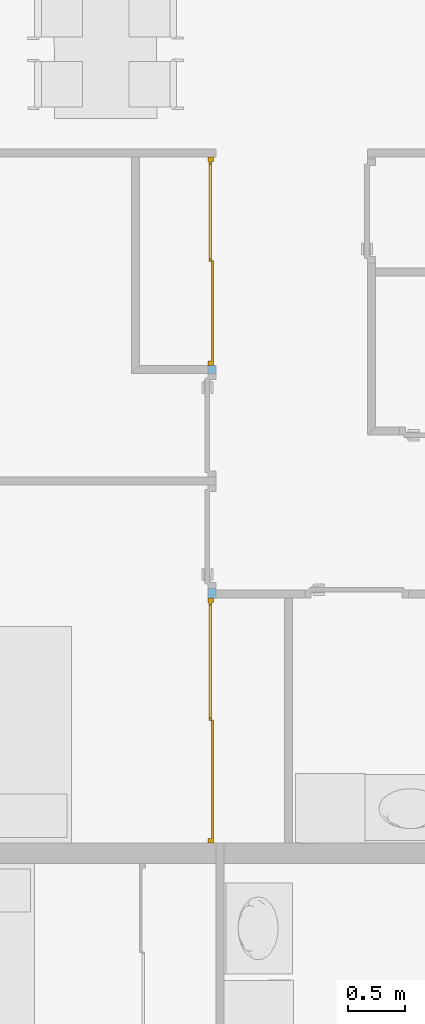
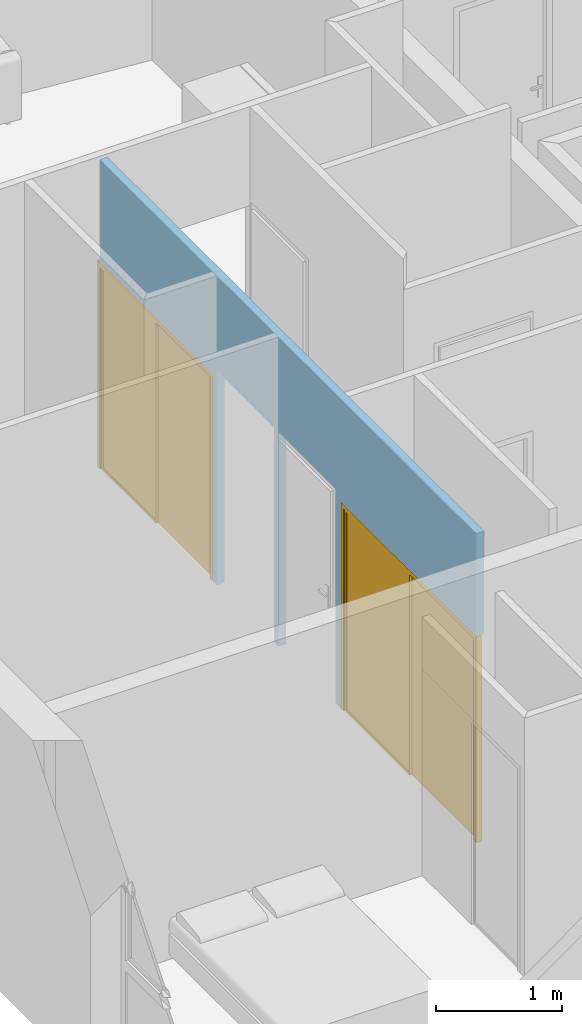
# One storey, part 88 of 164: 2 doors, 4 openings, plus 1 element that does not belong to this part.
"""IFC2X3 building model written with IfcOpenShell, lengths in millimetres."""

from ifc_helpers import new_model, entity, si_unit, converted_unit, derived_unit, money_unit, direction, frame, origin_with_axes, origin_2d_with_axis, place, context, subcontext, project, spatial, polyline, rectangle, outline, extrude, open_shell, faceted_brep, surface_model, material, layer, layer_set, layer_usage, type_object, element, fill, save


model = new_model("IFC2X3")

# Units and contexts
model_context = context("Model", 3, precision=0.01, world=origin_with_axes(), true_north=direction((0.0, 1.0)))
body_context = subcontext(model_context, "Body", "Model", "MODEL_VIEW")
ifc_project = project(units=[si_unit("LENGTHUNIT", "METRE", prefix="MILLI"), si_unit("AREAUNIT", "SQUARE_METRE"), si_unit("VOLUMEUNIT", "CUBIC_METRE"), converted_unit("PLANEANGLEUNIT", "DEGREE", entity("IfcPlaneAngleMeasure", 0.0174532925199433), si_unit("PLANEANGLEUNIT", "RADIAN"), dimensions=[0, 0, 0, 0, 0, 0, 0]), money_unit("USD"), converted_unit("TIMEUNIT", "Year", entity("IfcTimeMeasure", 31557600.0), si_unit("TIMEUNIT", "SECOND"), dimensions=[0, 0, 1, 0, 0, 0, 0]), si_unit("MASSUNIT", "GRAM", prefix="KILO"), si_unit("THERMODYNAMICTEMPERATUREUNIT", "DEGREE_CELSIUS"), si_unit("LUMINOUSINTENSITYUNIT", "LUMEN"), si_unit("ENERGYUNIT", "JOULE", prefix="MEGA"), derived_unit("THERMALCONDUCTANCEUNIT", [(si_unit("POWERUNIT", "WATT"), 1), (si_unit("LENGTHUNIT", "METRE"), -1), (si_unit("THERMODYNAMICTEMPERATUREUNIT", "KELVIN"), -1)]), derived_unit("SPECIFICHEATCAPACITYUNIT", [(si_unit("ENERGYUNIT", "JOULE"), 1), (si_unit("MASSUNIT", "GRAM", prefix="KILO"), -1), (si_unit("THERMODYNAMICTEMPERATUREUNIT", "KELVIN"), -1)]), derived_unit("MASSDENSITYUNIT", [(si_unit("MASSUNIT", "GRAM", prefix="KILO"), 1), (si_unit("VOLUMEUNIT", "CUBIC_METRE"), -1)])], contexts=[model_context])

# Site, building, storey
site_placement = place(None, origin_with_axes())
site = spatial("IfcSite", under=ifc_project, at=site_placement, Name="Site", CompositionType="ELEMENT")
building_placement = place(site_placement, origin_with_axes())
building = spatial("IfcBuilding", under=site, at=building_placement, Name="Bâtiment", CompositionType="ELEMENT")
storey_placement = place(building_placement, frame((0.0, 0.0, 5750.0), z_axis=(0.0, 0.0, 1.0), x_axis=(1.0, 0.0, 0.0)))
storey = spatial("IfcBuildingStorey", under=building, at=storey_placement, Name="Etage1", CompositionType="ELEMENT", Elevation=5750.0)

# Wall, openings, doors
ifc_material = material(Name="Hachure solide 268963992")
ifc_layer = layer(ifc_material, 70.0, ventilated="UNKNOWN")
ifc_layer_set = layer_set([ifc_layer], Name="Cloison 70 0826278243")
ifc_layer_usage = layer_usage(ifc_layer_set, "AXIS2", "POSITIVE", -70.0)
wall_type = type_object("IfcWallType", Name="Cloison 70 0826278243 70", PredefinedType="NOTDEFINED")
wall_placement = place(storey_placement, frame((2220940.801172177, -632613.5146792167, 0.0), z_axis=(0.0, 0.0, 1.0), x_axis=(9.654938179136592e-08, 0.9999999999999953, 0.0)))
wall = element("IfcWallStandardCase", 1, at=wall_placement, inside=storey, type_object=wall_type, material=ifc_layer_usage, Name="Mur-149", context=body_context, shape_type="SweptSolid", body=[
    extrude(outline(polyline([(180.0000067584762, -69.99999999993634), (6162.300556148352, -70.00000000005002), (6162.300556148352, 0.0), (180.0000000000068, 1.13686837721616e-10), (180.0000067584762, -69.99999999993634)])), origin_with_axes(), (0.0, 0.0, 1.0), 3000.0),
])
opening_1_placement = place(wall_placement, frame((3847.778411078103, 0.0, 0.0), z_axis=(0.0, 0.0, 1.0), x_axis=(1.0, 0.0, 0.0)))
element("IfcOpeningElement", 2, at=opening_1_placement, cuts=wall, Name="Por-276", context=body_context, shape_type="SweptSolid", body=[
    extrude(rectangle(XDim=910.0, YDim=2080.0, at=origin_2d_with_axis()), frame((0.0, -70.00000000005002, 1040.0), z_axis=(9.654938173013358e-08, -0.9999999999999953, 0.0), x_axis=(-0.9999999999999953, -9.654938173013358e-08, 0.0)), (0.0, 0.0, -1.0), 140.0),
])
opening_2_placement = place(wall_placement, frame((5287.539417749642, -1.13686837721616e-10, 0.0), z_axis=(0.0, 0.0, 1.0), x_axis=(1.0, 0.0, 0.0)))
opening_2 = element("IfcOpeningElement", 3, at=opening_2_placement, cuts=wall, Name="Por-321", context=body_context, shape_type="SweptSolid", body=[
    extrude(rectangle(XDim=1829.522276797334, YDim=2000.0, at=origin_2d_with_axis()), frame((-6.758469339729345e-06, 0.0005105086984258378, 1000.0), z_axis=(9.654938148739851e-08, -0.9999999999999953, 0.0), x_axis=(0.9999999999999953, 9.654938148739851e-08, 0.0)), (0.0, 0.0, -1.0), 70.0),
    extrude(rectangle(XDim=1829.522276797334, YDim=2000.0, at=origin_2d_with_axis()), frame((-6.758469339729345e-06, 0.0005105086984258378, 1000.0), z_axis=(-9.654938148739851e-08, 0.9999999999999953, 0.0), x_axis=(0.9999999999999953, 9.654938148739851e-08, 0.0)), (0.0, 0.0, -1.0), 70.0),
])
opening_3_placement = place(wall_placement, frame((2867.778411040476, -1.13686837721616e-10, 0.0), z_axis=(0.0, 0.0, 1.0), x_axis=(1.0, 0.0, 0.0)))
element("IfcOpeningElement", 4, at=opening_3_placement, cuts=wall, Name="Por-275", context=body_context, shape_type="SweptSolid", body=[
    extrude(rectangle(XDim=910.0, YDim=2080.0, at=origin_2d_with_axis()), frame((0.0, -70.00000000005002, 1040.0), z_axis=(-9.654938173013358e-08, 0.9999999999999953, 0.0), x_axis=(0.9999999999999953, 9.654938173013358e-08, 0.0)), (0.0, 0.0, 1.0), 140.0),
])
opening_4_placement = place(wall_placement, frame((1254.551809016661, 0.0, 0.0), z_axis=(0.0, 0.0, 1.0), x_axis=(1.0, 0.0, 0.0)))
opening_4 = element("IfcOpeningElement", 5, at=opening_4_placement, cuts=wall, Name="Por-321", context=body_context, shape_type="SweptSolid", body=[
    extrude(rectangle(XDim=2149.103632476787, YDim=2000.0, at=origin_2d_with_axis()), frame((-6.758469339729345e-06, 0.0001211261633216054, 1000.0), z_axis=(9.654938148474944e-08, -0.9999999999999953, 0.0), x_axis=(0.9999999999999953, 9.654938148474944e-08, 0.0)), (0.0, 0.0, -1.0), 70.0),
    extrude(rectangle(XDim=2149.103632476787, YDim=2000.0, at=origin_2d_with_axis()), frame((-6.758469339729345e-06, 0.0001211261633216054, 1000.0), z_axis=(-9.654938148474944e-08, 0.9999999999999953, 0.0), x_axis=(0.9999999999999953, 9.654938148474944e-08, 0.0)), (0.0, 0.0, -1.0), 70.0),
])
door_style = type_object("IfcDoorStyle", ConstructionType="NOTDEFINED", OperationType="NOTDEFINED", ParameterTakesPrecedence=False, Sizeable=False)
door_1_placement = place(opening_2_placement, frame((914.7611383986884, 1.13686837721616e-10, 0.0), z_axis=(0.0, 0.0, 1.0), x_axis=(-1.0, 0.0, 0.0)))
door_1 = element("IfcDoor", 6, at=door_1_placement, inside=storey, type_object=door_style, Name="Por-321", OverallHeight=2000.0, OverallWidth=1829.52, context=body_context, shape_type="SurfaceModel", body=[
    faceted_brep([(1829.522278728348, 49.99957781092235, 0.0), (1789.522278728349, 49.99957394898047, 0.0), (1789.522278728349, 49.99957394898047, 1960.0), (40.00000193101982, 49.9994050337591, 1960.0), (40.00000193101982, 49.9994050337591, 0.0), (1.931020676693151e-06, 49.99940117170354, 0.0), (1.931020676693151e-06, 49.99940117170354, 2000.0), (1829.522278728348, 49.99957781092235, 2000.0), (1829.522283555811, -0.0004221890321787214, 0.0), (1789.522283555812, -0.0004260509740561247, 0.0), (1789.522279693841, 39.99957394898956, 0.0), (1789.522279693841, 39.99957394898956, 1960.0), (40.0000028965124, 39.9994050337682, 1960.0), (40.0000028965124, 39.9994050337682, 0.0), (40.0000067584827, -0.0005949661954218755, 0.0), (6.75848355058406e-06, -0.0005988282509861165, 0.0), (6.75848355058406e-06, -0.0005988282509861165, 2000.0), (1829.522283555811, -0.0004221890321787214, 2000.0), (40.0000067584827, -0.0005949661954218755, 1960.0), (1789.522283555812, -0.0004260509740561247, 1960.0)], [[[0, 1, 2, 3, 4, 5, 6, 7]], [[0, 8, 9, 10, 1]], [[1, 10, 11, 2]], [[2, 11, 12, 3]], [[3, 12, 13, 4]], [[5, 4, 13, 14, 15]], [[16, 6, 5, 15]], [[17, 7, 6, 16]], [[8, 0, 7, 17]], [[9, 8, 17, 16, 15, 14, 18, 19]], [[10, 9, 19, 11]], [[11, 19, 18, 12]], [[12, 18, 14, 13]]]),
    faceted_brep([(40.00000386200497, 29.99940503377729, 0.0), (914.7611422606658, 29.99948949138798, 0.0), (914.761144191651, 9.999489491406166, 0.0), (40.00000579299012, 9.999405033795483, 0.0), (40.00000386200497, 29.99940503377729, 1960.0), (914.7611422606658, 29.99948949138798, 1960.0), (60.00000386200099, 29.99940696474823, 19.99999999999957), (894.7611422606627, 29.99948756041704, 19.99999999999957), (894.7611422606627, 29.99948756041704, 1940.0), (60.00000386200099, 29.99940696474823, 1940.0), (914.761144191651, 9.999489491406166, 1960.0), (40.00000579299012, 9.999405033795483, 1960.0), (60.00000579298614, 9.999406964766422, 19.99999999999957), (60.00000579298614, 9.999406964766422, 1940.0), (894.7611441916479, 9.999487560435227, 1940.0), (894.7611441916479, 9.999487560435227, 19.99999999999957)], [[[0, 1, 2, 3]], [[0, 4, 5, 1], [6, 7, 8, 9]], [[1, 5, 10, 2]], [[3, 2, 10, 11], [12, 13, 14, 15]], [[4, 0, 3, 11]], [[5, 4, 11, 10]], [[7, 6, 12, 15]], [[8, 7, 15, 14]], [[9, 8, 14, 13]], [[6, 9, 13, 12]]]),
    surface_model("IfcShellBasedSurfaceModel", [(60.00000482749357, 19.99940696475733, 19.99999999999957), (894.7611432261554, 19.99948756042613, 19.99999999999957), (894.7611432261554, 19.99948756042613, 1940.0), (60.00000482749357, 19.99940696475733, 1940.0)], [open_shell([[[0, 1, 2, 3]]])]),
    faceted_brep([(909.7611403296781, 49.99948900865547, 0.0), (1789.522278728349, 49.99957394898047, 0.0), (1789.522280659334, 29.99957394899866, 0.0), (909.7611422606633, 29.99948900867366, 0.0), (909.7611403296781, 49.99948900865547, 1960.0), (1789.522278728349, 49.99957394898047, 1960.0), (1789.522280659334, 29.99957394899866, 1960.0), (909.7611422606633, 29.99948900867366, 1960.0)], [[[0, 1, 2, 3]], [[0, 4, 5, 1]], [[1, 5, 6, 2]], [[3, 2, 6, 7]], [[4, 0, 3, 7]], [[5, 4, 7, 6]]]),
])
fill(opening_2, door_1)
door_2_placement = place(opening_4_placement, frame((1074.551816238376, -2.273736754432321e-10, 0.0), z_axis=(0.0, 0.0, 1.0), x_axis=(-1.0, 0.0, 0.0)))
door_2 = element("IfcDoor", 7, at=door_2_placement, inside=storey, type_object=door_style, Name="Por-321", OverallHeight=2000.0, OverallWidth=2149.1, context=body_context, shape_type="SurfaceModel", body=[
    faceted_brep([(2149.10363440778, 49.99998262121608, 0.0), (2109.103634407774, 49.9999787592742, 0.0), (2109.103634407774, 49.9999787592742, 1960.0), (40.00000193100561, 49.99977898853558, 1960.0), (40.00000193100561, 49.99977898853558, 0.0), (1.931006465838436e-06, 49.9997751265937, 0.0), (1.931006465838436e-06, 49.9997751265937, 2000.0), (2149.10363440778, 49.99998262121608, 2000.0), (2149.10363923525, -1.737873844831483e-05, 0.0), (2109.103639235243, -2.124068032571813e-05, 0.0), (2109.103635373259, 39.99997875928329, 0.0), (2109.103635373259, 39.99997875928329, 1960.0), (40.00000289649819, 39.99977898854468, 1960.0), (40.00000289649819, 39.99977898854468, 0.0), (40.00000675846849, -0.0002210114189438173, 0.0), (6.758469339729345e-06, -0.0002248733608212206, 0.0), (6.758469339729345e-06, -0.0002248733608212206, 2000.0), (2149.10363923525, -1.737873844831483e-05, 2000.0), (40.00000675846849, -0.0002210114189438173, 1960.0), (2109.103639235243, -2.124068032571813e-05, 1960.0)], [[[0, 1, 2, 3, 4, 5, 6, 7]], [[0, 8, 9, 10, 1]], [[1, 10, 11, 2]], [[2, 11, 12, 3]], [[3, 12, 13, 4]], [[5, 4, 13, 14, 15]], [[16, 6, 5, 15]], [[17, 7, 6, 16]], [[8, 0, 7, 17]], [[9, 8, 17, 16, 15, 14, 18, 19]], [[10, 9, 19, 11]], [[11, 19, 18, 12]], [[12, 18, 14, 13]]]),
    faceted_brep([(40.00000386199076, 29.99977898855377, 0.0), (1074.551820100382, 29.99987887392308, 0.0), (1074.551822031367, 9.99987887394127, 0.0), (40.00000579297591, 9.999778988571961, 0.0), (40.00000386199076, 29.99977898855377, 1960.0), (1074.551820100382, 29.99987887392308, 1960.0), (60.00000386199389, 29.9997809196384, 19.99999999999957), (1054.551820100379, 29.99987694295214, 19.99999999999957), (1054.551820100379, 29.99987694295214, 1940.0), (60.00000386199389, 29.9997809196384, 1940.0), (1074.551822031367, 9.99987887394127, 1960.0), (40.00000579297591, 9.999778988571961, 1960.0), (60.00000579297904, 9.999780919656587, 19.99999999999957), (60.00000579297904, 9.999780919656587, 1940.0), (1054.551822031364, 9.999876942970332, 1940.0), (1054.551822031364, 9.999876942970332, 19.99999999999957)], [[[0, 1, 2, 3]], [[0, 4, 5, 1], [6, 7, 8, 9]], [[1, 5, 10, 2]], [[3, 2, 10, 11], [12, 13, 14, 15]], [[4, 0, 3, 11]], [[5, 4, 11, 10]], [[7, 6, 12, 15]], [[8, 7, 15, 14]], [[9, 8, 14, 13]], [[6, 9, 13, 12]]]),
    surface_model("IfcShellBasedSurfaceModel", [(60.00000482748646, 19.99978091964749, 19.99999999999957), (1054.551821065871, 19.99987694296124, 19.99999999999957), (1054.551821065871, 19.99987694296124, 1940.0), (60.00000482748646, 19.99978091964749, 1940.0)], [open_shell([[[0, 1, 2, 3]]])]),
    faceted_brep([(1069.551818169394, 49.99987839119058, 0.0), (2109.103634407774, 49.9999787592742, 0.0), (2109.103636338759, 29.99997875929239, 0.0), (1069.551820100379, 29.99987839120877, 0.0), (1069.551818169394, 49.99987839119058, 1960.0), (2109.103634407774, 49.9999787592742, 1960.0), (2109.103636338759, 29.99997875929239, 1960.0), (1069.551820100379, 29.99987839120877, 1960.0)], [[[0, 1, 2, 3]], [[0, 4, 5, 1]], [[1, 5, 6, 2]], [[3, 2, 6, 7]], [[4, 0, 3, 7]], [[5, 4, 7, 6]]]),
])
fill(opening_4, door_2)

save(model, "model.ifc")
